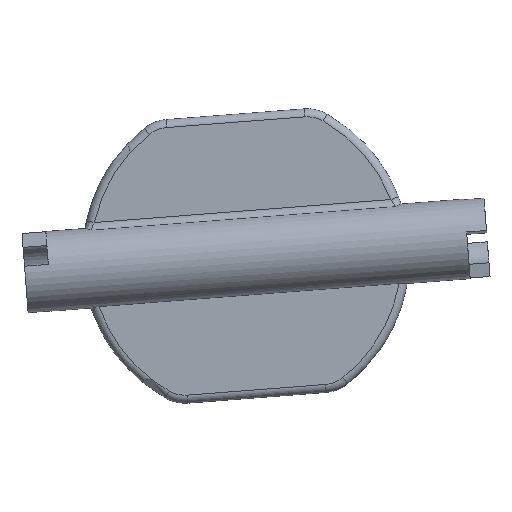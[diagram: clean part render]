
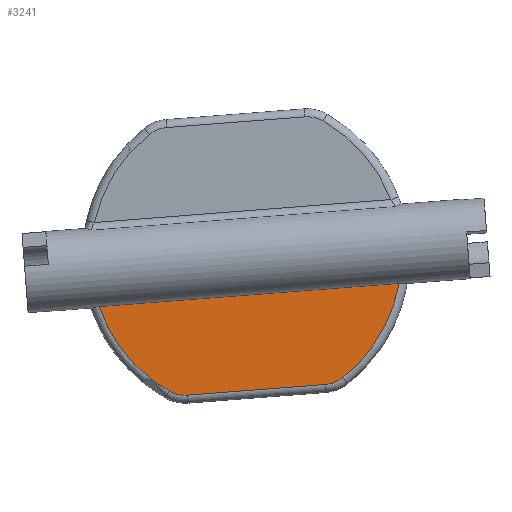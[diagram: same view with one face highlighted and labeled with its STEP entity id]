
A CAD part, front view. The second image highlights one B-rep face of the part: STEP entity #3241.
In plain terms, the highlighted planar face has unit normal (0, -1, 0).
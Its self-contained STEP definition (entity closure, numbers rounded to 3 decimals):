
#990=CARTESIAN_POINT('',(797.9,-1.,-125.87));
#991=DIRECTION('',(0.,1.,0.));
#992=DIRECTION('',(-0.495,0.,-0.869));
#993=AXIS2_PLACEMENT_3D('',#990,#991,#992);
#995=DIRECTION('',(-0.997,0.,-0.077));
#996=VECTOR('',#995,37.749);
#997=CARTESIAN_POINT('',(817.097,-1.,-129.296));
#998=LINE('',#997,#996);
#999=CARTESIAN_POINT('',(797.9,-1.,-125.87));
#1000=DIRECTION('',(0.,1.,0.));
#1001=DIRECTION('',(0.984,0.,-0.176));
#1002=AXIS2_PLACEMENT_3D('',#999,#1000,#1001);
#1004=CARTESIAN_POINT('',(807.555,-1.,-137.996));
#1005=DIRECTION('',(0.,1.,0.));
#1006=DIRECTION('',(0.623,0.,-0.782));
#1007=AXIS2_PLACEMENT_3D('',#1004,#1005,#1006);
#1009=DIRECTION('',(-0.997,0.,-0.077));
#1010=VECTOR('',#1009,17.38);
#1011=CARTESIAN_POINT('',(807.864,-1.,-141.984));
#1012=LINE('',#1011,#1010);
#1013=CARTESIAN_POINT('',(790.228,-1.,-139.338));
#1014=DIRECTION('',(0.,1.,0.));
#1015=DIRECTION('',(0.077,0.,-0.997));
#1016=AXIS2_PLACEMENT_3D('',#1013,#1014,#1015);
#1607=CARTESIAN_POINT('',(788.248,-1.,-142.814));
#1608=CARTESIAN_POINT('',(779.46,-1.,-132.212));
#1609=VERTEX_POINT('',#1607);
#1610=VERTEX_POINT('',#1608);
#1615=CARTESIAN_POINT('',(790.537,-1.,-143.326));
#1616=VERTEX_POINT('',#1615);
#1617=CARTESIAN_POINT('',(807.864,-1.,-141.984));
#1618=VERTEX_POINT('',#1617);
#1619=CARTESIAN_POINT('',(810.047,-1.,-141.125));
#1620=VERTEX_POINT('',#1619);
#1625=CARTESIAN_POINT('',(817.097,-1.,-129.296));
#1626=VERTEX_POINT('',#1625);
#3222=CARTESIAN_POINT('',(0.,-1.,0.));
#3223=DIRECTION('',(0.,-1.,0.));
#3224=DIRECTION('',(1.,0.,0.));
#3225=AXIS2_PLACEMENT_3D('',#3222,#3223,#3224);
#3226=PLANE('',#3225);
#3228=ORIENTED_EDGE('',*,*,#3227,.T.);
#3230=ORIENTED_EDGE('',*,*,#3229,.F.);
#3232=ORIENTED_EDGE('',*,*,#3231,.T.);
#3234=ORIENTED_EDGE('',*,*,#3233,.T.);
#3236=ORIENTED_EDGE('',*,*,#3235,.T.);
#3238=ORIENTED_EDGE('',*,*,#3237,.T.);
#3239=EDGE_LOOP('',(#3228,#3230,#3232,#3234,#3236,#3238));
#3240=FACE_OUTER_BOUND('',#3239,.F.);
#3241=ADVANCED_FACE('',(#3240),#3226,.T.);
#994=CIRCLE('',#993,19.5);
#1003=CIRCLE('',#1002,19.5);
#1008=CIRCLE('',#1007,4.);
#1017=CIRCLE('',#1016,4.);
#3227=EDGE_CURVE('',#1609,#1610,#994,.T.);
#3229=EDGE_CURVE('',#1626,#1610,#998,.T.);
#3231=EDGE_CURVE('',#1626,#1620,#1003,.T.);
#3233=EDGE_CURVE('',#1620,#1618,#1008,.T.);
#3235=EDGE_CURVE('',#1618,#1616,#1012,.T.);
#3237=EDGE_CURVE('',#1616,#1609,#1017,.T.);
